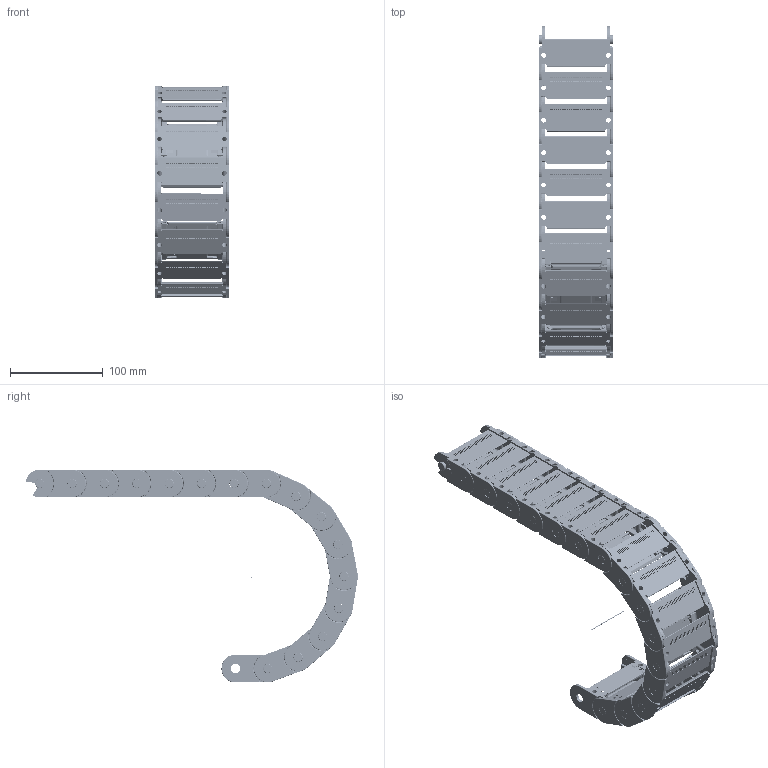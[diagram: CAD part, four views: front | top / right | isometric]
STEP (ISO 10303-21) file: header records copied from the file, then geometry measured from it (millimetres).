
FILE_DESCRIPTION((''),'2;1');
FILE_NAME('C:\Uebbing\PARAMETERKETTEN\KOLIBRI\Kol_30_080_2\Kol_30_080_2_R100.stp','2012-03-05T11:11:24',('Uebbing'),(''),'Autodesk Inventor 10','Autodesk Inventor 10','');
FILE_SCHEMA(('AUTOMOTIVE_DESIGN { 1 0 10303 214 1 1 1 1 }'));
Length unit declared in the file: millimetre
Products named in the file (5): KOLIBRI 30_080_2_PARAMETRISCH; Achse; Kol_30_080_2_Glied; Kol 30_080_2_ Lasche; Kol 30_080_0 Klappsteg
Assembly tree (19 placements, depth 3):
  KOLIBRI 30_080_2_PARAMETRISCH
    Achse
    Kol_30_080_2_Glied  x16
      Kol 30_080_2_ Lasche
      Kol 30_080_0 Klappsteg
Bounding box: 80 x 358.61 x 230 mm (x, y, z)
Volume: 352396.3 mm3; surface area: 286249.7 mm2
Topology: 33 solids, 33 shells, 15379 faces, 41716 edges, 27427 vertices
Faces by surface type: plane 7842, bspline 4304, cylinder 2913, torus 208, cone 64, sphere 48
Full cylindrical faces by diameter (mm): 1 x1, 1.166 x16, 2.048 x16, 2.8 x96, 5.1 x16, 10 x16, 10.1 x16
Entity records: 33341 total; most frequent: CARTESIAN_POINT 10061, ORIENTED_EDGE 5136, DIRECTION 4185, EDGE_CURVE 2568, VERTEX_POINT 1703, VECTOR 1693, LINE 1693, AXIS2_PLACEMENT_3D 1246
